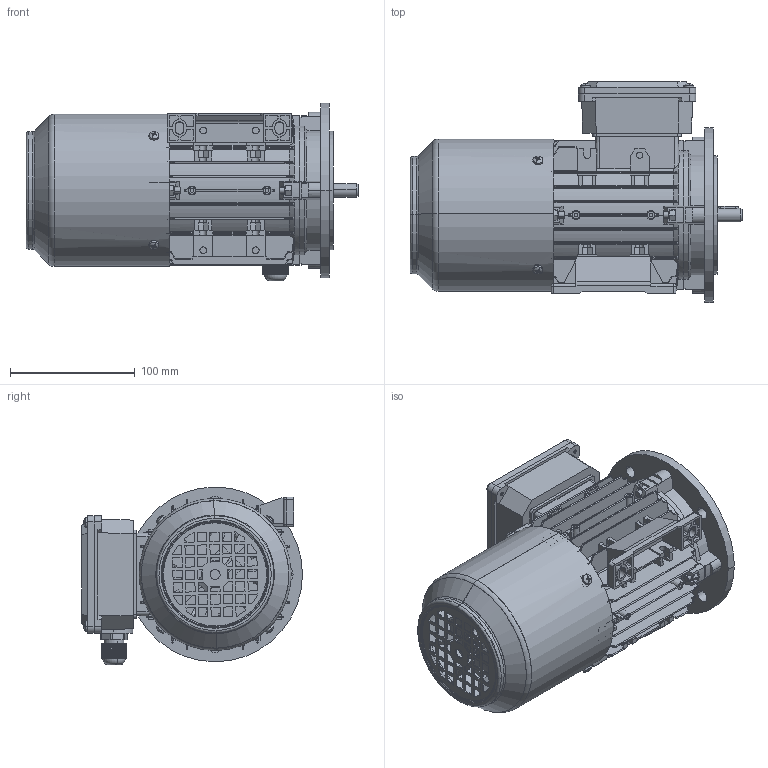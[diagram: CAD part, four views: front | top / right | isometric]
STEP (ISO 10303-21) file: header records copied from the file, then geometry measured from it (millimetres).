
FILE_DESCRIPTION (( 'STEP AP203' ), '1' );
FILE_NAME ('TB63 B5（风罩不带手柄孔）.STEP', '2021-10-20T02:39:38', ( '' ), ( '' ), 'SwSTEP 2.0', 'SolidWorks 2014', '' );
FILE_SCHEMA (( 'CONFIG_CONTROL_DESIGN' ));
Length unit declared in the file: millimetre
Products named in the file (16): MS63-71 陔諉盄碟裔; TAN63 B5裔; Cross recessed thread forming screws GB_GB_CROSS_SCREWS_TYPE138 M4X10-N; 怢宒63瑞珔囀傍; TB63 綴裔; Hexagon socket head cap screws GB_GB_FASTENER_SCREWS_HSHCS M5X25-N; 堤盄蹟杶M16; TB63瑞欶ㄗ祥湍忒梟謂ㄘ; Plain parallel keys_GB_CONNECTING_PIECE_KEYS_CSK 4X16; TB63 B5（风罩不带手柄孔）; MS63-71 陔諉盄碟釱; TAN63 菁褐; TB63 蛌粣; 怢宒63瑞珔; TAN63 儂褲; Hexagon nuts grade C GB_GB_FASTENER_NUT_SNC1 M5-N
Assembly tree (42 placements, depth 2):
  TB63 B5（风罩不带手柄孔）
    TAN63 儂褲
    TB63 綴裔
    MS63-71 陔諉盄碟釱
    MS63-71 陔諉盄碟裔
    堤盄蹟杶M16
    TB63 蛌粣
    Cross recessed thread forming screws GB_GB_CROSS_SCREWS_TYPE138 M4X10-N  x8
    Plain parallel keys_GB_CONNECTING_PIECE_KEYS_CSK 4X16
    Hexagon nuts grade C GB_GB_FASTENER_NUT_SNC1 M5-N  x11
    Hexagon socket head cap screws GB_GB_FASTENER_SCREWS_HSHCS M5X25-N  x11
    TAN63 菁褐
    TAN63 B5裔
    TB63瑞欶ㄗ祥湍忒梟謂ㄘ
    怢宒63瑞珔
    怢宒63瑞珔囀傍
Bounding box: 266 x 177 x 142.54 mm (x, y, z)
Volume: 566832.7 mm3; surface area: 466440 mm2
Topology: 42 solids, 42 shells, 4020 faces, 10562 edges, 6689 vertices
Faces by surface type: plane 2020, cylinder 1012, bspline 478, cone 356, torus 130, sphere 24
Entity records: 122557 total; most frequent: CARTESIAN_POINT 38350, ORIENTED_EDGE 18320, DIRECTION 15565, EDGE_CURVE 9160, VERTEX_POINT 5851, AXIS2_PLACEMENT_3D 5416, LINE 4733, VECTOR 4733
